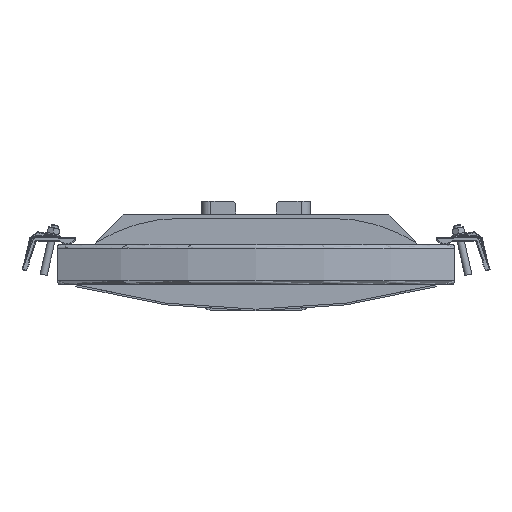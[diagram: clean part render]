
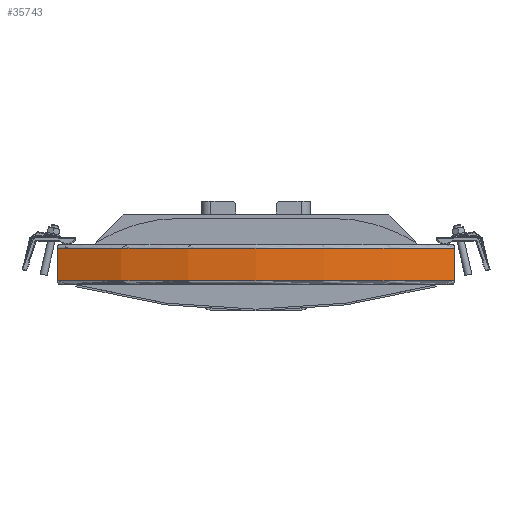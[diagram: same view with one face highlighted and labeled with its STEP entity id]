
A CAD part, front view. The second image highlights one B-rep face of the part: STEP entity #35743.
In plain terms, the highlighted cylindrical face has radius 492 mm (diameter 984 mm), a partial arc.
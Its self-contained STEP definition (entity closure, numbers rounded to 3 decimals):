
#1869 = CIRCLE ( 'NONE', #44903, 492. ) ;
#5020 = CARTESIAN_POINT ( 'NONE',  ( -220.375, 40.115, 40. ) ) ;
#7176 = ORIENTED_EDGE ( 'NONE', *, *, #55583, .F. ) ;
#8312 = VERTEX_POINT ( 'NONE', #58717 ) ;
#9656 = CARTESIAN_POINT ( 'NONE',  ( 220.375, 40.115, 40. ) ) ;
#9840 = CARTESIAN_POINT ( 'NONE',  ( 0., 480., 0. ) ) ;
#9932 = CARTESIAN_POINT ( 'NONE',  ( -220.375, 40.115, 4. ) ) ;
#10018 = DIRECTION ( 'NONE',  ( -1., 0., 0. ) ) ;
#10255 = EDGE_CURVE ( 'NONE', #20799, #34902, #61167, .T. ) ;
#10330 = DIRECTION ( 'NONE',  ( 0., 0., -1. ) ) ;
#11232 = CARTESIAN_POINT ( 'NONE',  ( -220.375, 40.115, 40. ) ) ;
#18114 = AXIS2_PLACEMENT_3D ( 'NONE', #9840, #29574, #33986 ) ;
#19488 = EDGE_CURVE ( 'NONE', #40896, #8312, #42973, .T. ) ;
#20799 = VERTEX_POINT ( 'NONE', #11232 ) ;
#23012 = AXIS2_PLACEMENT_3D ( 'NONE', #23834, #43574, #28216 ) ;
#23814 = CARTESIAN_POINT ( 'NONE',  ( 0., 480., 4. ) ) ;
#23834 = CARTESIAN_POINT ( 'NONE',  ( 0., 480., 40. ) ) ;
#24119 = EDGE_LOOP ( 'NONE', ( #32465, #41050, #50327, #7176 ) ) ;
#24136 = DIRECTION ( 'NONE',  ( 0., 0., -1. ) ) ;
#28216 = DIRECTION ( 'NONE',  ( -1., 0., 0. ) ) ;
#29574 = DIRECTION ( 'NONE',  ( 0., 0., -1. ) ) ;
#32465 = ORIENTED_EDGE ( 'NONE', *, *, #19488, .F. ) ;
#33056 = FACE_OUTER_BOUND ( 'NONE', #24119, .T. ) ;
#33894 = DIRECTION ( 'NONE',  ( 0., 0., -1. ) ) ;
#33986 = DIRECTION ( 'NONE',  ( -1., 0., 0. ) ) ;
#34902 = VERTEX_POINT ( 'NONE', #9932 ) ;
#35743 = ADVANCED_FACE ( 'NONE', ( #33056 ), #42451, .T. ) ;
#38266 = CARTESIAN_POINT ( 'NONE',  ( 220.375, 40.115, 40. ) ) ;
#40896 = VERTEX_POINT ( 'NONE', #9656 ) ;
#41050 = ORIENTED_EDGE ( 'NONE', *, *, #58174, .T. ) ;
#42047 = CIRCLE ( 'NONE', #23012, 492. ) ;
#42451 = CYLINDRICAL_SURFACE ( 'NONE', #18114, 492. ) ;
#42973 = LINE ( 'NONE', #38266, #54723 ) ;
#43574 = DIRECTION ( 'NONE',  ( 0., 0., -1. ) ) ;
#44903 = AXIS2_PLACEMENT_3D ( 'NONE', #23814, #10330, #10018 ) ;
#50327 = ORIENTED_EDGE ( 'NONE', *, *, #10255, .T. ) ;
#51776 = VECTOR ( 'NONE', #24136, 1000. ) ;
#54723 = VECTOR ( 'NONE', #33894, 1000. ) ;
#55583 = EDGE_CURVE ( 'NONE', #8312, #34902, #1869, .T. ) ;
#58174 = EDGE_CURVE ( 'NONE', #40896, #20799, #42047, .T. ) ;
#58717 = CARTESIAN_POINT ( 'NONE',  ( 220.375, 40.115, 4. ) ) ;
#61167 = LINE ( 'NONE', #5020, #51776 ) ;
